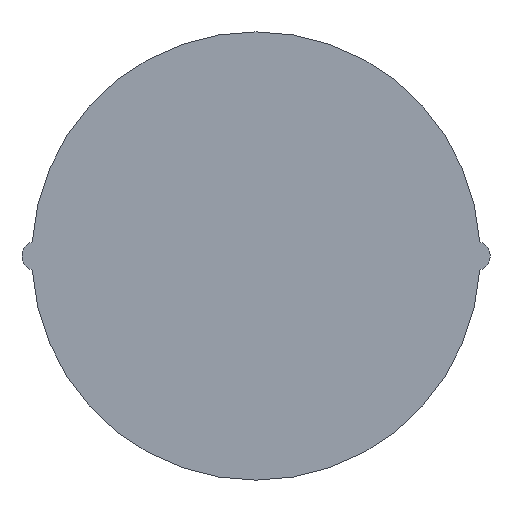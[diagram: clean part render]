
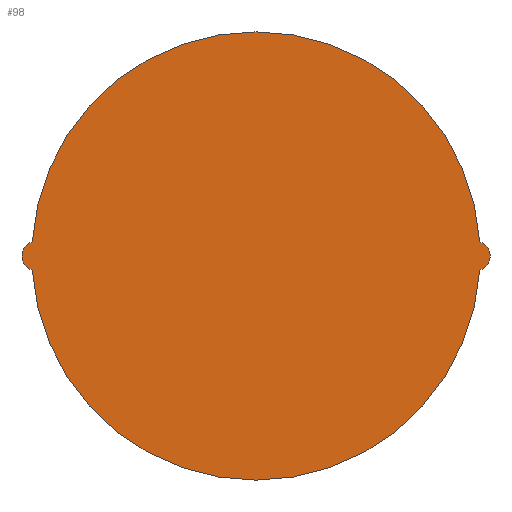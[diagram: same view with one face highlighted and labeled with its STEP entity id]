
A CAD part, front view. The second image highlights one B-rep face of the part: STEP entity #98.
In plain terms, the highlighted planar face has unit normal (0, -1, 0).
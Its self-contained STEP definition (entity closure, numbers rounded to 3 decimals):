
#16=PLANE('',#135);
#22=FACE_OUTER_BOUND('',#28,.T.);
#28=EDGE_LOOP('',(#85,#86,#87,#88));
#37=CIRCLE('',#123,9.05);
#39=CIRCLE('',#126,0.6);
#41=CIRCLE('',#129,9.05);
#43=CIRCLE('',#132,0.6);
#45=VERTEX_POINT('',#172);
#46=VERTEX_POINT('',#173);
#49=VERTEX_POINT('',#181);
#51=VERTEX_POINT('',#187);
#53=EDGE_CURVE('',#45,#46,#37,.T.);
#57=EDGE_CURVE('',#46,#49,#39,.T.);
#60=EDGE_CURVE('',#49,#51,#41,.T.);
#63=EDGE_CURVE('',#51,#45,#43,.T.);
#85=ORIENTED_EDGE('',*,*,#53,.F.);
#86=ORIENTED_EDGE('',*,*,#63,.F.);
#87=ORIENTED_EDGE('',*,*,#60,.F.);
#88=ORIENTED_EDGE('',*,*,#57,.F.);
#98=ADVANCED_FACE('',(#22),#16,.F.);
#123=AXIS2_PLACEMENT_3D('',#174,#140,#141);
#126=AXIS2_PLACEMENT_3D('',#182,#148,#149);
#129=AXIS2_PLACEMENT_3D('',#188,#155,#156);
#132=AXIS2_PLACEMENT_3D('',#193,#162,#163);
#135=AXIS2_PLACEMENT_3D('',#196,#168,#169);
#140=DIRECTION('center_axis',(0.,1.,0.));
#141=DIRECTION('ref_axis',(0.998,0.,0.063));
#148=DIRECTION('center_axis',(0.,1.,0.));
#149=DIRECTION('ref_axis',(0.303,0.,-0.953));
#155=DIRECTION('center_axis',(0.,1.,0.));
#156=DIRECTION('ref_axis',(-0.998,0.,-0.063));
#162=DIRECTION('center_axis',(0.,1.,0.));
#163=DIRECTION('ref_axis',(-0.303,0.,0.953));
#168=DIRECTION('center_axis',(0.,1.,0.));
#169=DIRECTION('ref_axis',(0.,0.,1.));
#172=CARTESIAN_POINT('',(-9.032,-0.075,0.572));
#173=CARTESIAN_POINT('',(9.032,-0.075,0.572));
#174=CARTESIAN_POINT('Origin',(0.,-0.075,
0.));
#181=CARTESIAN_POINT('',(9.032,-0.075,-0.572));
#182=CARTESIAN_POINT('Origin',(8.85,-0.075,0.));
#187=CARTESIAN_POINT('',(-9.032,-0.075,-0.572));
#188=CARTESIAN_POINT('Origin',(0.,-0.075,
0.));
#193=CARTESIAN_POINT('Origin',(-8.85,-0.075,0.));
#196=CARTESIAN_POINT('Origin',(0.,-0.075,
0.));
